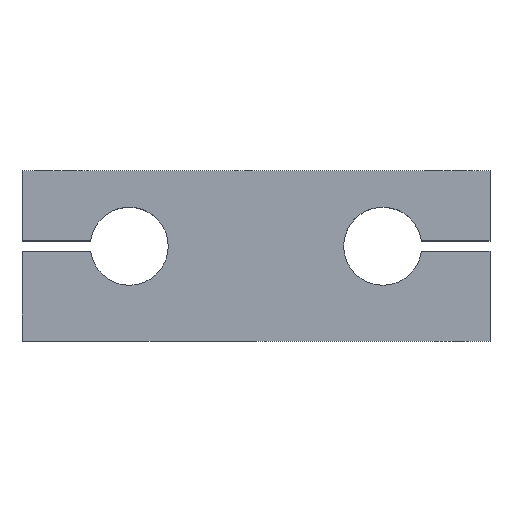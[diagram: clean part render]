
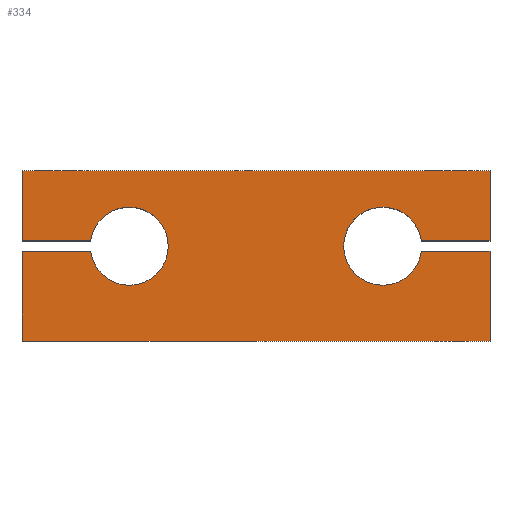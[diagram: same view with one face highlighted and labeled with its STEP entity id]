
A CAD part, top view. The second image highlights one B-rep face of the part: STEP entity #334.
In plain terms, the highlighted planar face has unit normal (0, 0, 1).
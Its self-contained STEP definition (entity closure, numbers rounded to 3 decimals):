
#4 = EDGE_LOOP ( 'NONE', ( #656, #817, #212, #288, #269, #171, #1003, #982, #471, #839, #939, #841, #437 ) ) ;
#13 = CARTESIAN_POINT ( 'NONE',  ( -48., 3.075, 7.5 ) ) ;
#16 = CARTESIAN_POINT ( 'NONE',  ( 26., 2., 7.5 ) ) ;
#45 = CARTESIAN_POINT ( 'NONE',  ( 48., -17.5, 7.5 ) ) ;
#51 = EDGE_CURVE ( 'NONE', #1017, #909, #1045, .T. ) ;
#62 = DIRECTION ( 'NONE',  ( 1., 0., 0. ) ) ;
#63 = VECTOR ( 'NONE', #736, 1000. ) ;
#66 = DIRECTION ( 'NONE',  ( -1., 0., 0. ) ) ;
#69 = DIRECTION ( 'NONE',  ( 0., 0., 1. ) ) ;
#97 = DIRECTION ( 'NONE',  ( 0., -1., 0. ) ) ;
#119 = CIRCLE ( 'NONE', #828, 8. ) ;
#123 = AXIS2_PLACEMENT_3D ( 'NONE', #919, #69, #62 ) ;
#124 = VECTOR ( 'NONE', #908, 1000. ) ;
#140 = EDGE_CURVE ( 'NONE', #404, #785, #229, .T. ) ;
#150 = LINE ( 'NONE', #764, #378 ) ;
#154 = PLANE ( 'NONE',  #306 ) ;
#171 = ORIENTED_EDGE ( 'NONE', *, *, #712, .T. ) ;
#192 = CIRCLE ( 'NONE', #123, 8. ) ;
#199 = CARTESIAN_POINT ( 'NONE',  ( 48., 0.925, 7.5 ) ) ;
#201 = EDGE_CURVE ( 'NONE', #752, #1017, #854, .T. ) ;
#212 = ORIENTED_EDGE ( 'NONE', *, *, #222, .F. ) ;
#218 = VERTEX_POINT ( 'NONE', #1008 ) ;
#222 = EDGE_CURVE ( 'NONE', #582, #404, #192, .T. ) ;
#228 = DIRECTION ( 'NONE',  ( 1., 0., 0. ) ) ;
#229 = CIRCLE ( 'NONE', #777, 8. ) ;
#236 = VERTEX_POINT ( 'NONE', #45 ) ;
#238 = LINE ( 'NONE', #755, #631 ) ;
#269 = ORIENTED_EDGE ( 'NONE', *, *, #322, .T. ) ;
#281 = DIRECTION ( 'NONE',  ( 0., 0., 1. ) ) ;
#288 = ORIENTED_EDGE ( 'NONE', *, *, #510, .F. ) ;
#297 = CARTESIAN_POINT ( 'NONE',  ( -18., 2., 7.5 ) ) ;
#306 = AXIS2_PLACEMENT_3D ( 'NONE', #847, #984, #763 ) ;
#317 = CARTESIAN_POINT ( 'NONE',  ( 25., 0.925, 7.5 ) ) ;
#319 = CARTESIAN_POINT ( 'NONE',  ( 48., 17.5, 7.5 ) ) ;
#322 = EDGE_CURVE ( 'NONE', #218, #467, #238, .T. ) ;
#333 = CARTESIAN_POINT ( 'NONE',  ( -48., 0.925, 7.5 ) ) ;
#334 = ADVANCED_FACE ( 'NONE', ( #750 ), #154, .T. ) ;
#353 = DIRECTION ( 'NONE',  ( 0., 0., 1. ) ) ;
#354 = LINE ( 'NONE', #508, #881 ) ;
#361 = DIRECTION ( 'NONE',  ( -1., 0., 0. ) ) ;
#365 = LINE ( 'NONE', #632, #447 ) ;
#376 = CARTESIAN_POINT ( 'NONE',  ( -33.927, 3.075, 7.5 ) ) ;
#378 = VECTOR ( 'NONE', #66, 1000. ) ;
#398 = VERTEX_POINT ( 'NONE', #199 ) ;
#404 = VERTEX_POINT ( 'NONE', #297 ) ;
#407 = DIRECTION ( 'NONE',  ( 0., -1., 0. ) ) ;
#411 = CARTESIAN_POINT ( 'NONE',  ( -48., 17.5, 7.5 ) ) ;
#416 = VECTOR ( 'NONE', #599, 1000. ) ;
#437 = ORIENTED_EDGE ( 'NONE', *, *, #980, .T. ) ;
#447 = VECTOR ( 'NONE', #713, 1000. ) ;
#449 = CARTESIAN_POINT ( 'NONE',  ( 48., 3.075, 7.5 ) ) ;
#459 = CARTESIAN_POINT ( 'NONE',  ( -48., -17.5, 7.5 ) ) ;
#461 = DIRECTION ( 'NONE',  ( -1., 0., 0. ) ) ;
#467 = VERTEX_POINT ( 'NONE', #459 ) ;
#471 = ORIENTED_EDGE ( 'NONE', *, *, #807, .F. ) ;
#494 = CARTESIAN_POINT ( 'NONE',  ( -33.927, 0.925, 7.5 ) ) ;
#508 = CARTESIAN_POINT ( 'NONE',  ( -48., 3.075, 7.5 ) ) ;
#510 = EDGE_CURVE ( 'NONE', #218, #582, #653, .T. ) ;
#518 = VECTOR ( 'NONE', #97, 1000. ) ;
#575 = EDGE_CURVE ( 'NONE', #752, #1105, #150, .T. ) ;
#581 = CARTESIAN_POINT ( 'NONE',  ( -48., 17.5, 7.5 ) ) ;
#582 = VERTEX_POINT ( 'NONE', #494 ) ;
#585 = CARTESIAN_POINT ( 'NONE',  ( 33.927, 0.925, 7.5 ) ) ;
#599 = DIRECTION ( 'NONE',  ( 1., 0., 0. ) ) ;
#616 = LINE ( 'NONE', #942, #416 ) ;
#631 = VECTOR ( 'NONE', #407, 1000. ) ;
#632 = CARTESIAN_POINT ( 'NONE',  ( 48., 17.5, 7.5 ) ) ;
#653 = LINE ( 'NONE', #333, #124 ) ;
#656 = ORIENTED_EDGE ( 'NONE', *, *, #695, .F. ) ;
#668 = LINE ( 'NONE', #581, #518 ) ;
#695 = EDGE_CURVE ( 'NONE', #785, #1075, #354, .T. ) ;
#712 = EDGE_CURVE ( 'NONE', #467, #236, #616, .T. ) ;
#713 = DIRECTION ( 'NONE',  ( 0., 1., 0. ) ) ;
#736 = DIRECTION ( 'NONE',  ( 0., 1., 0. ) ) ;
#747 = LINE ( 'NONE', #317, #773 ) ;
#750 = FACE_OUTER_BOUND ( 'NONE', #4, .T. ) ;
#752 = VERTEX_POINT ( 'NONE', #449 ) ;
#755 = CARTESIAN_POINT ( 'NONE',  ( -48., 17.5, 7.5 ) ) ;
#761 = EDGE_CURVE ( 'NONE', #236, #398, #365, .T. ) ;
#763 = DIRECTION ( 'NONE',  ( 1., 0., 0. ) ) ;
#764 = CARTESIAN_POINT ( 'NONE',  ( 25., 3.075, 7.5 ) ) ;
#771 = DIRECTION ( 'NONE',  ( 1., 0., 0. ) ) ;
#773 = VECTOR ( 'NONE', #228, 1000. ) ;
#774 = VECTOR ( 'NONE', #461, 1000. ) ;
#777 = AXIS2_PLACEMENT_3D ( 'NONE', #1114, #353, #771 ) ;
#785 = VERTEX_POINT ( 'NONE', #376 ) ;
#798 = CARTESIAN_POINT ( 'NONE',  ( 48., 17.5, 7.5 ) ) ;
#806 = CARTESIAN_POINT ( 'NONE',  ( -48., 17.5, 7.5 ) ) ;
#807 = EDGE_CURVE ( 'NONE', #1105, #941, #119, .T. ) ;
#817 = ORIENTED_EDGE ( 'NONE', *, *, #140, .F. ) ;
#828 = AXIS2_PLACEMENT_3D ( 'NONE', #16, #281, #922 ) ;
#839 = ORIENTED_EDGE ( 'NONE', *, *, #575, .F. ) ;
#841 = ORIENTED_EDGE ( 'NONE', *, *, #51, .T. ) ;
#847 = CARTESIAN_POINT ( 'NONE',  ( 0., 0., 7.5 ) ) ;
#854 = LINE ( 'NONE', #319, #63 ) ;
#881 = VECTOR ( 'NONE', #361, 1000. ) ;
#908 = DIRECTION ( 'NONE',  ( 1., 0., 0. ) ) ;
#909 = VERTEX_POINT ( 'NONE', #411 ) ;
#919 = CARTESIAN_POINT ( 'NONE',  ( -26., 2., 7.5 ) ) ;
#922 = DIRECTION ( 'NONE',  ( 1., 0., 0. ) ) ;
#939 = ORIENTED_EDGE ( 'NONE', *, *, #201, .T. ) ;
#940 = CARTESIAN_POINT ( 'NONE',  ( 33.927, 3.075, 7.5 ) ) ;
#941 = VERTEX_POINT ( 'NONE', #585 ) ;
#942 = CARTESIAN_POINT ( 'NONE',  ( -48., -17.5, 7.5 ) ) ;
#965 = EDGE_CURVE ( 'NONE', #941, #398, #747, .T. ) ;
#980 = EDGE_CURVE ( 'NONE', #909, #1075, #668, .T. ) ;
#982 = ORIENTED_EDGE ( 'NONE', *, *, #965, .F. ) ;
#984 = DIRECTION ( 'NONE',  ( 0., 0., 1. ) ) ;
#1003 = ORIENTED_EDGE ( 'NONE', *, *, #761, .T. ) ;
#1008 = CARTESIAN_POINT ( 'NONE',  ( -48., 0.925, 7.5 ) ) ;
#1017 = VERTEX_POINT ( 'NONE', #798 ) ;
#1045 = LINE ( 'NONE', #806, #774 ) ;
#1075 = VERTEX_POINT ( 'NONE', #13 ) ;
#1105 = VERTEX_POINT ( 'NONE', #940 ) ;
#1114 = CARTESIAN_POINT ( 'NONE',  ( -26., 2., 7.5 ) ) ;
